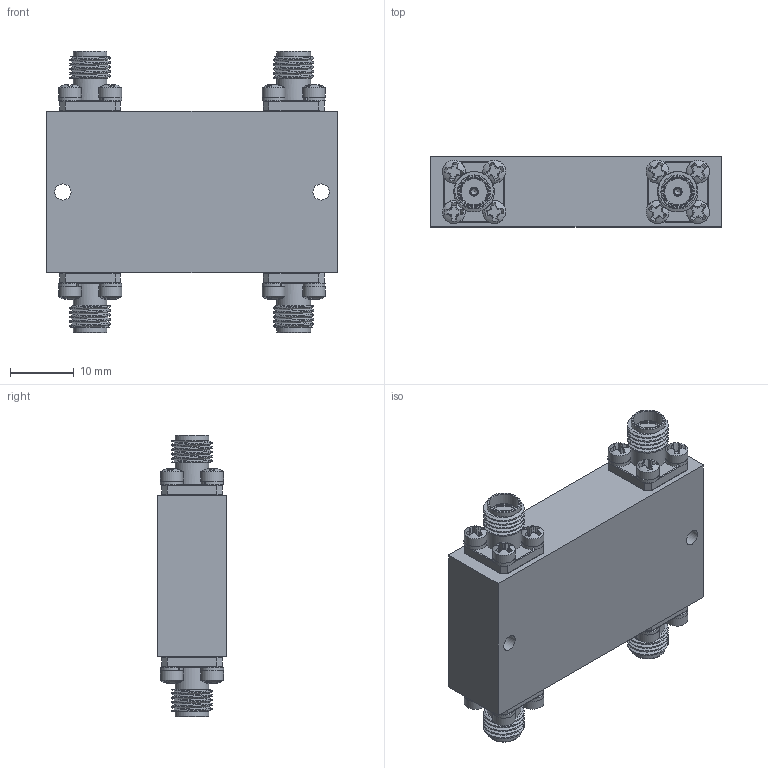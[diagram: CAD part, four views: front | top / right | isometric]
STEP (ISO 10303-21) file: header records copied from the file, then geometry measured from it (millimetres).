
FILE_DESCRIPTION (( 'STEP AP214' ), '1' );
FILE_NAME ('QC-17G21G-SFF-30W.STEP', '2026-09-01T14:45:08', ( '' ), ( '' ), 'SwSTEP 2.0', 'SolidWorks 2025', '' );
FILE_SCHEMA (( 'AUTOMOTIVE_DESIGN' ));
Length unit declared in the file: inch
Products named in the file (1): QC-17G21G-SFF-30W
Bounding box: 45.64 x 11 x 44.3 mm (x, y, z)
Volume: 14307.5 mm3; surface area: 7836.1 mm2
Topology: 53 solids, 53 shells, 977 faces, 2844 edges, 2130 vertices
Faces by surface type: plane 579, cylinder 194, torus 92, cone 88, sphere 16, bspline 8
Full cylindrical faces by diameter (mm): 0.305 x4, 0.381 x4, 0.635 x4, 1.016 x4, 1.27 x4, 1.702 x16, 2.184 x16, 2.54 x2, 3.302 x4, 3.556 x16, 4.191 x8, 4.597 x4, 5.283 x8
Entity records: 50107 total; most frequent: CARTESIAN_POINT 12720, ORIENTED_EDGE 5208, DIRECTION 4902, EDGE_CURVE 2604, VERTEX_POINT 2100, AXIS2_PLACEMENT_3D 1827, EDGE_LOOP 1380, LINE 1248
